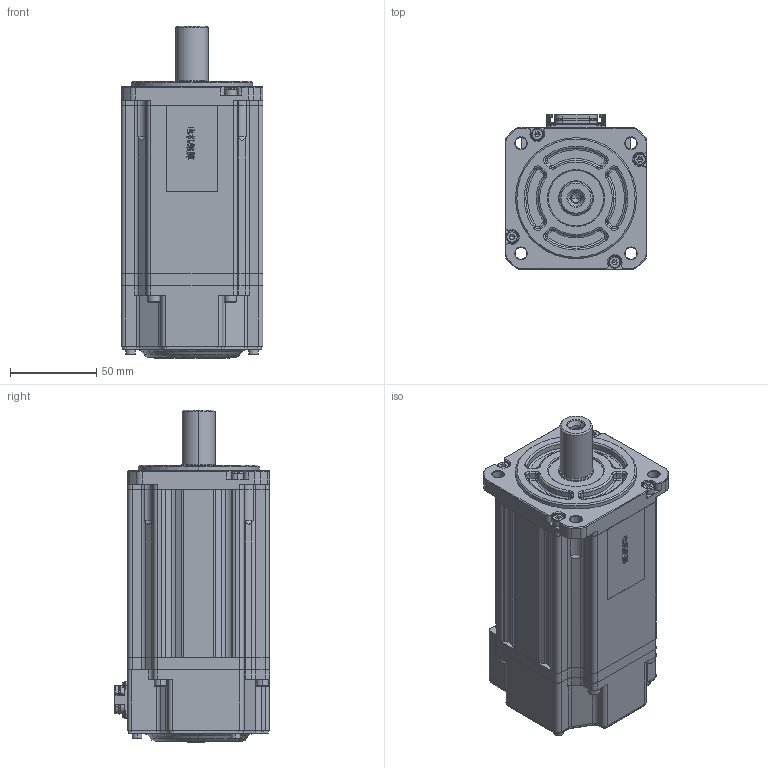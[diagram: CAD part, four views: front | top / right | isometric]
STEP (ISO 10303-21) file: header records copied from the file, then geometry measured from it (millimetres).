
FILE_DESCRIPTION (( 'STEP AP203' ), '1' );
FILE_NAME ('MC20-080-3L30-N751-1¡õCL-NNNN.STEP', '2026-04-20T15:25:20', ( '' ), ( '' ), 'SwSTEP 2.0', 'SolidWorks 2014', '' );
FILE_SCHEMA (( 'CONFIG_CONTROL_DESIGN' ));
Length unit declared in the file: millimetre
Products named in the file (1): MC20-080-3L30-N751-1¡õCL-NNNN
Bounding box: 82 x 89.65 x 192 mm (x, y, z)
Volume: 983307.5 mm3; surface area: 134707.9 mm2
Topology: 18 solids, 22 shells, 2291 faces, 6015 edges, 3836 vertices
Faces by surface type: plane 1050, cylinder 600, bspline 340, cone 183, torus 118
Entity records: 90899 total; most frequent: CARTESIAN_POINT 37057, ORIENTED_EDGE 11880, DIRECTION 9996, EDGE_CURVE 5940, VERTEX_POINT 3836, VECTOR 3382, LINE 3382, AXIS2_PLACEMENT_3D 3307
